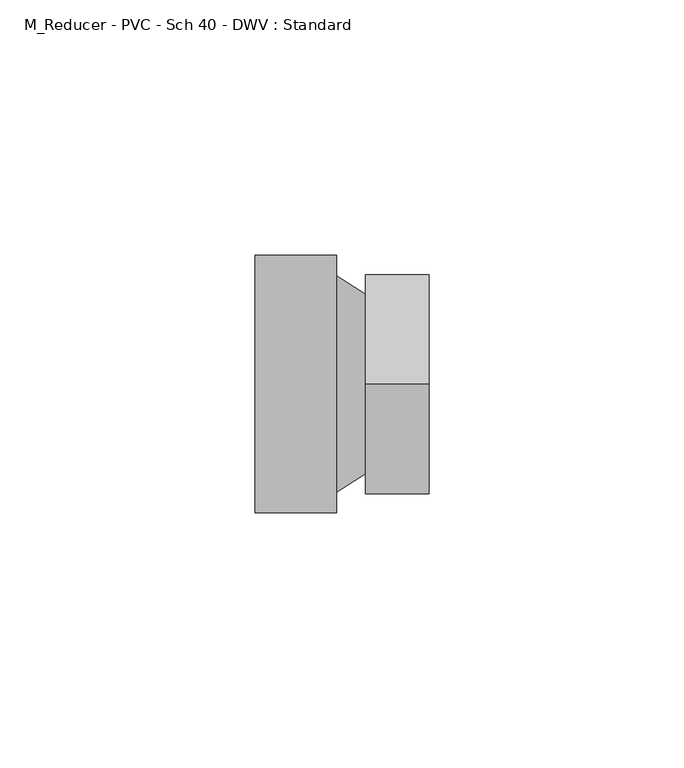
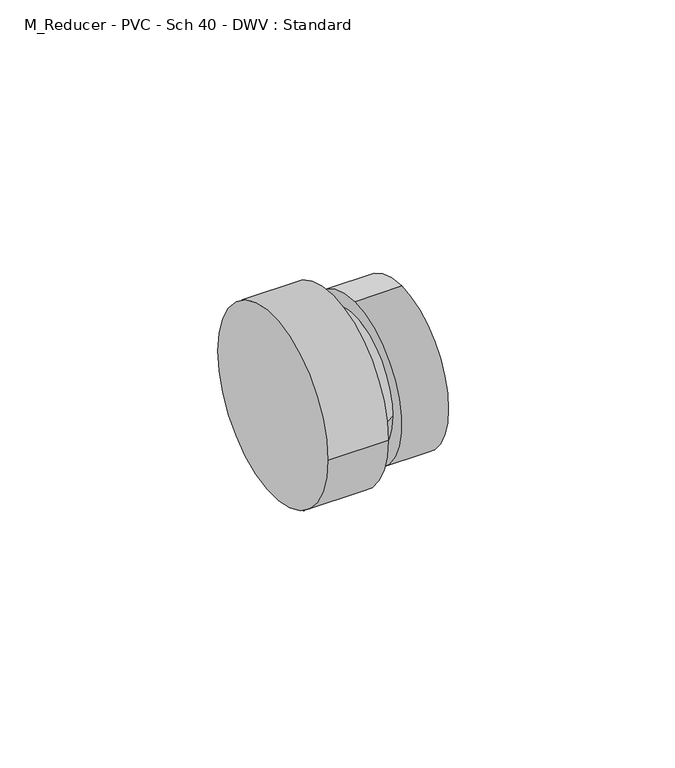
"""IFC4 building model written with IfcOpenShell, lengths in millimetres: pipe fitting geometry, M_Reducer - PVC - Sch 40 - DWV : Standard."""

from ifc_helpers import new_model, si_unit, frame, origin, place, context, project, spatial, polyline, circle_curve, source, transform, mapped, element, save
from ifc_brep_helpers import plane_surface, cylinder_surface, revolved_surface, advanced_brep


def m_reducer_pvc_sch_40_dwv_standard_06ee5028(model_context):
    return source(origin(), model_context, "Body", "AdvancedBrep", [
        advanced_brep(
        [(0.0, -25.2671094, 0.0), (0.0, 25.2671094, 0.0), (16.0, -25.2671094, 0.0), (16.0, 25.2671094, 0.0), (16.0, 21.2040625, 0.0), (16.0, -21.2040625, 0.0), (21.6460938, 17.5640625, 0.0), (21.6460937, -17.5640625, 0.0), (21.6460938, 0.0, 21.4871094), (21.6460938, 0.0, -21.4871094), (34.1460938, 0.0, 21.4871094), (34.1460938, 0.0, -21.4871094)],
        [
            (0, 1, circle_curve(frame((0.0, 0.0, 0.0), z_axis=(-1.0, 0.0, 0.0), x_axis=(0.0, 1.0, 0.0)), 25.2671094)),
            (1, 0, circle_curve(frame((0.0, 0.0, 0.0), z_axis=(-1.0, 0.0, 0.0), x_axis=(0.0, 1.0, 0.0)), 25.2671094)),
            (2, 3, circle_curve(frame((16.0, 0.0, 0.0), z_axis=(1.0, 0.0, 0.0), x_axis=(0.0, 1.0, 0.0)), 25.2671094)),
            (3, 2, circle_curve(frame((16.0, 0.0, 0.0), z_axis=(1.0, 0.0, 0.0), x_axis=(0.0, 1.0, 0.0)), 25.2671094)),
            (4, 5, circle_curve(frame((16.0, 0.0, 0.0), z_axis=(-1.0, 1.0428608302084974e-12, 0.0), x_axis=(-1.0429165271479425e-12, -1.0, 0.0)), 21.2040625)),
            (5, 4, circle_curve(frame((16.0, 0.0, 0.0), z_axis=(-1.0, 1.0428608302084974e-12, 0.0), x_axis=(1.042916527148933e-12, 1.0, 0.0)), 21.2040625)),
            (0, 2),
            (3, 1),
            (4, 6),
            (6, 7, circle_curve(frame((21.6460938, 0.0, 0.0), z_axis=(-1.0, 1.0428608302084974e-12, 0.0), x_axis=(-1.0429165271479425e-12, -1.0, 0.0)), 17.5640625)),
            (7, 5),
            (7, 6, circle_curve(frame((21.6460938, 0.0, 0.0), z_axis=(-1.0, 1.0428608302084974e-12, 0.0), x_axis=(1.042916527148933e-12, 1.0, 0.0)), 17.5640625)),
            (8, 9, circle_curve(frame((21.6460938, 0.0, 0.0), z_axis=(-1.0, 0.0, 0.0), x_axis=(0.0, 0.0, -1.0)), 21.4871094)),
            (9, 8, circle_curve(frame((21.6460938, 0.0, 0.0), z_axis=(-1.0, 0.0, 0.0), x_axis=(0.0, 0.0, -1.0)), 21.4871094)),
            (10, 11, circle_curve(frame((34.1460938, 0.0, 0.0), z_axis=(1.0, 0.0, 0.0), x_axis=(0.0, 0.0, -1.0)), 21.4871094)),
            (11, 10, circle_curve(frame((34.1460938, 0.0, 0.0), z_axis=(1.0, 0.0, 0.0), x_axis=(0.0, 0.0, -1.0)), 21.4871094)),
            (8, 10),
            (11, 9),
        ],
        [
            plane_surface(frame((0.0, 0.0, 0.0), z_axis=(-1.0, 0.0, 0.0), x_axis=(0.0, 0.0, 1.0))),
            plane_surface(frame((16.0, 0.0, 0.0), z_axis=(1.0, 0.0, 0.0), x_axis=(0.0, 0.0, 1.0))),
            cylinder_surface(frame((0.0, 0.0, 0.0), z_axis=(-1.0, 0.0, 0.0), x_axis=(0.0, 1.0, 0.0)), 25.2671094),
            revolved_surface(polyline([(21.646093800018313, 17.56406247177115, 0.0), (16.0, 21.2040625, 0.0)]), (48.8901442, 0.0, 0.0), (-1.0, 1.0428608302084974e-12, 0.0)),
            plane_surface(frame((21.6460938, 0.0, 0.0), z_axis=(-1.0, 0.0, 0.0), x_axis=(0.0, 1.0, 0.0))),
            plane_surface(frame((34.1460938, 0.0, 0.0), z_axis=(1.0, 0.0, 0.0), x_axis=(0.0, 1.0, 0.0))),
            cylinder_surface(frame((21.6460938, 0.0, 0.0), z_axis=(-1.0, 0.0, 0.0), x_axis=(0.0, 0.0, -1.0)), 21.4871094),
        ],
        [
            (0, [[1, 2]]),
            (1, [[3, 4], [5, 6]]),
            (2, [[-1, 7, -4, 8]]),
            (2, [[-2, -8, -3, -7]]),
            (3, [[9, 10, 11, -5]]),
            (3, [[-9, -6, -11, 12]]),
            (4, [[13, 14], [-10, -12]]),
            (5, [[15, 16]]),
            (6, [[-13, 17, -16, 18]]),
            (6, [[-14, -18, -15, -17]]),
        ],
    ),
    ])


if __name__ == "__main__":
    model = new_model("IFC4")
    model_context = context("Model", 3, world=origin())
    ifc_project = project(units=[si_unit("LENGTHUNIT", "METRE", prefix="MILLI")], contexts=[model_context])
    site = spatial("IfcSite", under=ifc_project)
    building = spatial("IfcBuilding", under=site)
    placement = place(None, origin())
    m_reducer_pvc_sch_40_dwv_standard_shape = m_reducer_pvc_sch_40_dwv_standard_06ee5028(model_context)
    element("IfcPipeFitting", 1, ObjectType="M_Reducer - PVC - Sch 40 - DWV : Standard", at=placement, inside=building, context=model_context, shape_type="MappedRepresentation", body=[
        mapped(m_reducer_pvc_sch_40_dwv_standard_shape, transform((0.0, 0.0, 0.0), x_axis=(1.0, 0.0, 0.0), y_axis=(0.0, 1.0, 0.0), z_axis=(0.0, 0.0, 1.0))),
    ])
    save(model, "model.ifc")
